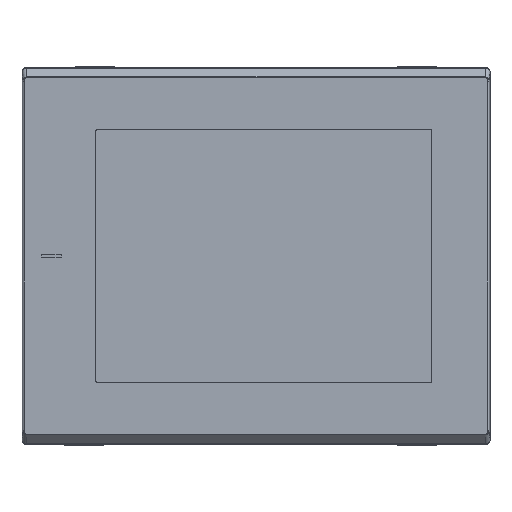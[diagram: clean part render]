
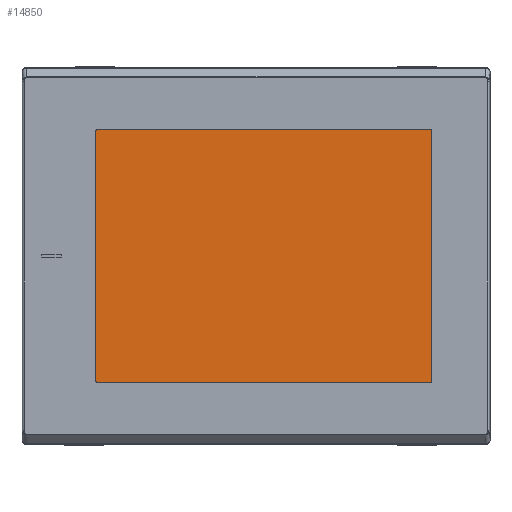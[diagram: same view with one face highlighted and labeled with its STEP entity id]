
A CAD part, top view. The second image highlights one B-rep face of the part: STEP entity #14850.
In plain terms, the highlighted planar face has unit normal (0, 0, 1).
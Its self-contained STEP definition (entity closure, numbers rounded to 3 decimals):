
#4173=CARTESIAN_POINT('',(-81.5,64.2,-0.1));
#4174=DIRECTION('',(0.,0.,-1.));
#4175=DIRECTION('',(-1.,0.,0.));
#4176=AXIS2_PLACEMENT_3D('',#4173,#4174,#4175);
#4178=DIRECTION('',(1.,0.,0.));
#4179=VECTOR('',#4178,171.);
#4180=CARTESIAN_POINT('',(-81.5,65.2,-0.1));
#4181=LINE('',#4180,#4179);
#4182=CARTESIAN_POINT('',(89.5,64.2,-0.1));
#4183=DIRECTION('',(0.,0.,-1.));
#4184=DIRECTION('',(0.,1.,0.));
#4185=AXIS2_PLACEMENT_3D('',#4182,#4183,#4184);
#4187=DIRECTION('',(0.,-1.,0.));
#4188=VECTOR('',#4187,128.4);
#4189=CARTESIAN_POINT('',(90.5,64.2,-0.1));
#4190=LINE('',#4189,#4188);
#4191=CARTESIAN_POINT('',(89.5,-64.2,-0.1));
#4192=DIRECTION('',(0.,0.,-1.));
#4193=DIRECTION('',(1.,0.,0.));
#4194=AXIS2_PLACEMENT_3D('',#4191,#4192,#4193);
#4196=DIRECTION('',(-1.,0.,0.));
#4197=VECTOR('',#4196,171.);
#4198=CARTESIAN_POINT('',(89.5,-65.2,-0.1));
#4199=LINE('',#4198,#4197);
#4200=CARTESIAN_POINT('',(-81.5,-64.2,-0.1));
#4201=DIRECTION('',(0.,0.,-1.));
#4202=DIRECTION('',(0.,-1.,0.));
#4203=AXIS2_PLACEMENT_3D('',#4200,#4201,#4202);
#4205=DIRECTION('',(0.,1.,0.));
#4206=VECTOR('',#4205,128.4);
#4207=CARTESIAN_POINT('',(-82.5,-64.2,-0.1));
#4208=LINE('',#4207,#4206);
#8294=CARTESIAN_POINT('',(-81.5,65.2,-0.1));
#8295=CARTESIAN_POINT('',(89.5,65.2,-0.1));
#8296=VERTEX_POINT('',#8294);
#8297=VERTEX_POINT('',#8295);
#8298=CARTESIAN_POINT('',(-82.5,64.2,-0.1));
#8299=VERTEX_POINT('',#8298);
#8300=CARTESIAN_POINT('',(90.5,64.2,-0.1));
#8301=VERTEX_POINT('',#8300);
#8302=CARTESIAN_POINT('',(90.5,-64.2,-0.1));
#8303=VERTEX_POINT('',#8302);
#8304=CARTESIAN_POINT('',(89.5,-65.2,-0.1));
#8305=VERTEX_POINT('',#8304);
#8306=CARTESIAN_POINT('',(-81.5,-65.2,-0.1));
#8307=VERTEX_POINT('',#8306);
#8308=CARTESIAN_POINT('',(-82.5,-64.2,-0.1));
#8309=VERTEX_POINT('',#8308);
#14828=CARTESIAN_POINT('',(4.,0.,-0.1));
#14829=DIRECTION('',(0.,0.,1.));
#14830=DIRECTION('',(1.,0.,0.));
#14831=AXIS2_PLACEMENT_3D('',#14828,#14829,#14830);
#14832=PLANE('',#14831);
#14834=ORIENTED_EDGE('',*,*,#14833,.T.);
#14835=ORIENTED_EDGE('',*,*,#14818,.T.);
#14837=ORIENTED_EDGE('',*,*,#14836,.T.);
#14839=ORIENTED_EDGE('',*,*,#14838,.T.);
#14841=ORIENTED_EDGE('',*,*,#14840,.T.);
#14843=ORIENTED_EDGE('',*,*,#14842,.T.);
#14845=ORIENTED_EDGE('',*,*,#14844,.T.);
#14847=ORIENTED_EDGE('',*,*,#14846,.T.);
#14848=EDGE_LOOP('',(#14834,#14835,#14837,#14839,#14841,#14843,#14845,#14847));
#14849=FACE_OUTER_BOUND('',#14848,.F.);
#14850=ADVANCED_FACE('',(#14849),#14832,.T.);
#4177=CIRCLE('',#4176,1.);
#4186=CIRCLE('',#4185,1.);
#4195=CIRCLE('',#4194,1.);
#4204=CIRCLE('',#4203,1.);
#14818=EDGE_CURVE('',#8296,#8297,#4181,.T.);
#14833=EDGE_CURVE('',#8299,#8296,#4177,.T.);
#14836=EDGE_CURVE('',#8297,#8301,#4186,.T.);
#14838=EDGE_CURVE('',#8301,#8303,#4190,.T.);
#14840=EDGE_CURVE('',#8303,#8305,#4195,.T.);
#14842=EDGE_CURVE('',#8305,#8307,#4199,.T.);
#14844=EDGE_CURVE('',#8307,#8309,#4204,.T.);
#14846=EDGE_CURVE('',#8309,#8299,#4208,.T.);
